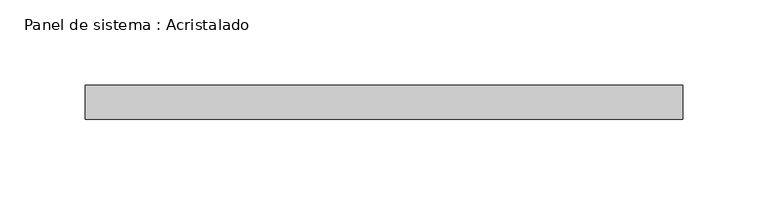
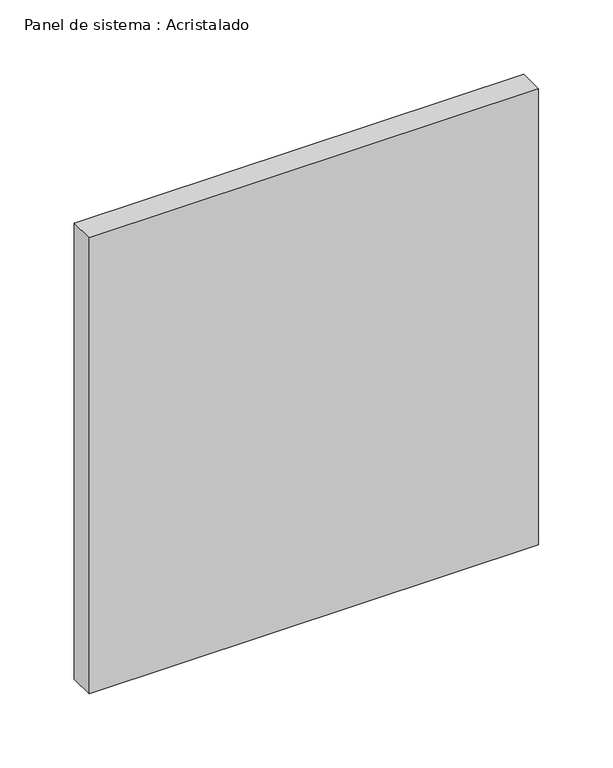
"""IFC4 building model written with IfcOpenShell, lengths in millimetres: plate geometry, Panel de sistema : Acristalado."""

from ifc_helpers import new_model, si_unit, origin, origin_with_axes, place, context, project, spatial, polyline, outline, extrude, source, transform, mapped, element, save


def panel_de_sistema_acristalado_c2b2af91(model_context):
    return source(origin(), model_context, "Body", "SweptSolid", [
        extrude(outline(polyline([(175.0, -10.0), (-175.0, -10.0), (-175.0, 10.0), (175.0, 10.0), (175.0, -10.0)])), origin_with_axes(), (0.0, 0.0, 1.0), 375.0),
    ])


if __name__ == "__main__":
    model = new_model("IFC4")
    model_context = context("Model", 3, world=origin())
    ifc_project = project(units=[si_unit("LENGTHUNIT", "METRE", prefix="MILLI")], contexts=[model_context])
    site = spatial("IfcSite", under=ifc_project)
    building = spatial("IfcBuilding", under=site)
    placement = place(None, origin())
    panel_de_sistema_acristalado_shape = panel_de_sistema_acristalado_c2b2af91(model_context)
    element("IfcPlate", 1, ObjectType="Panel de sistema : Acristalado", at=placement, inside=building, context=model_context, shape_type="MappedRepresentation", body=[
        mapped(panel_de_sistema_acristalado_shape, transform((0.0, 0.0, 0.0), x_axis=(1.0, 0.0, 0.0), y_axis=(0.0, 1.0, 0.0), z_axis=(0.0, 0.0, 1.0))),
    ])
    save(model, "model.ifc")
